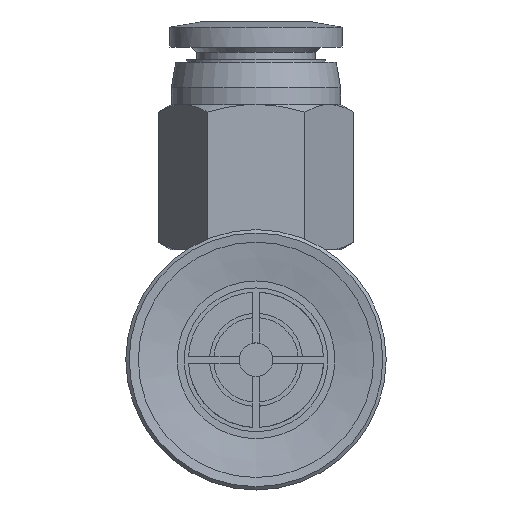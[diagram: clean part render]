
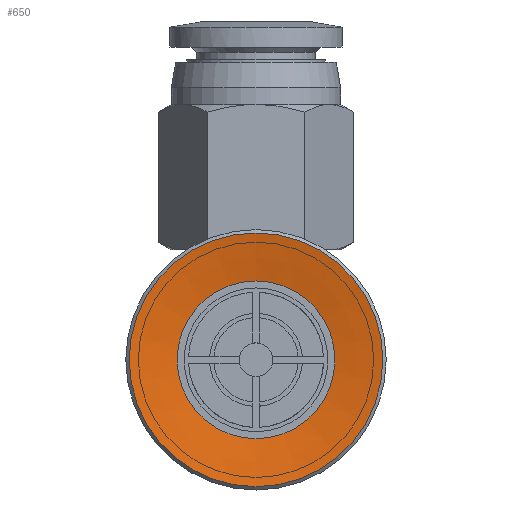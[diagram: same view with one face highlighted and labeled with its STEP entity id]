
A CAD part, front view. The second image highlights one B-rep face of the part: STEP entity #650.
In plain terms, the highlighted conical face has half-angle 80 degrees and reference radius 4.664 mm.
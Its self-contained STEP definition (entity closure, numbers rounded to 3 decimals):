
#650=ADVANCED_FACE('',(#1131,#1132),#1133,.F.);
#1131=FACE_BOUND('',#1843,.T.);
#1132=FACE_OUTER_BOUND('',#1844,.T.);
#1133=CONICAL_SURFACE('',#1845,4.664,1.396);
#1843=EDGE_LOOP('',(#3201));
#1844=EDGE_LOOP('',(#3202));
#1845=AXIS2_PLACEMENT_3D('',#3203,#3204,#3205);
#3201=ORIENTED_EDGE('',*,*,#3679,.F.);
#3202=ORIENTED_EDGE('',*,*,#3663,.T.);
#3203=CARTESIAN_POINT('',(0.0,0.5,0.0));
#3204=DIRECTION('',(-0.0,-1.0,0.));
#3205=DIRECTION('',(0.0,0.,-1.0));
#3663=EDGE_CURVE('',#4323,#4323,#4324,.T.);
#3679=EDGE_CURVE('',#4346,#4346,#4347,.T.);
#4323=VERTEX_POINT('',#5873);
#4324=CIRCLE('',#5874,7.5);
#4346=VERTEX_POINT('',#5901);
#4347=CIRCLE('',#5902,4.664);
#5873=CARTESIAN_POINT('',(0.0,0.,-7.5));
#5874=AXIS2_PLACEMENT_3D('',#6449,#6450,#6451);
#5901=CARTESIAN_POINT('',(0.0,0.5,-4.664));
#5902=AXIS2_PLACEMENT_3D('',#6487,#6488,#6489);
#6449=CARTESIAN_POINT('',(0.0,0.0,0.0));
#6450=DIRECTION('',(0.0,-1.0,0.));
#6451=DIRECTION('',(0.0,0.,-1.0));
#6487=CARTESIAN_POINT('',(0.0,0.5,0.0));
#6488=DIRECTION('',(0.0,-1.0,0.));
#6489=DIRECTION('',(0.0,0.,-1.0));
